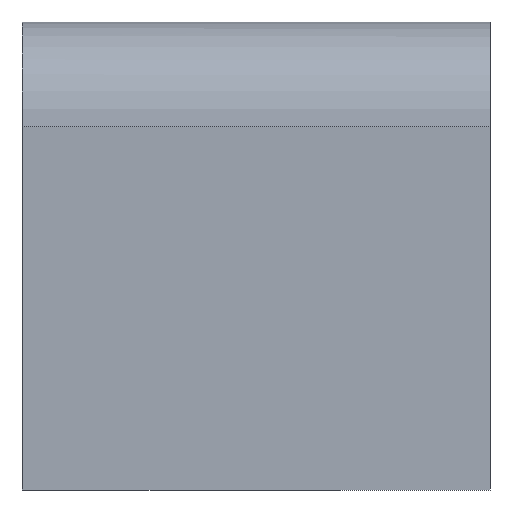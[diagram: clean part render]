
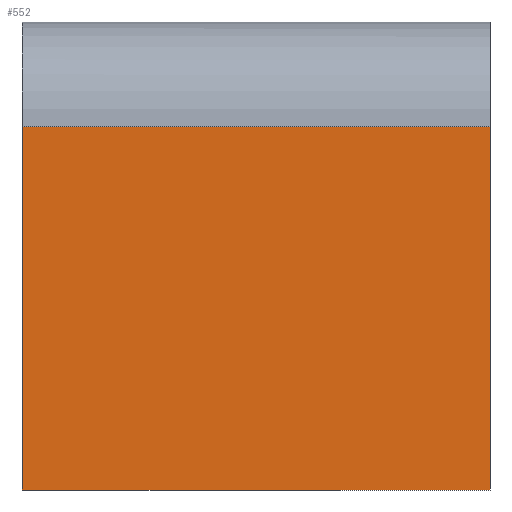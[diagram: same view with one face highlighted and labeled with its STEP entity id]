
A CAD part, left-side view. The second image highlights one B-rep face of the part: STEP entity #552.
In plain terms, the highlighted planar face has unit normal (-1, 0, 0).
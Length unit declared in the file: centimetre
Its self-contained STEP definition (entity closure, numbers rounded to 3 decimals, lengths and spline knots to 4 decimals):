
#25 = CARTESIAN_POINT ( 'NONE',  ( 0., 0., 776.006 ) ) ;
#30 = DIRECTION ( 'NONE',  ( 0., 0., -1. ) ) ;
#37 = CARTESIAN_POINT ( 'NONE',  ( 0., 1000., 776.006 ) ) ;
#169 = ORIENTED_EDGE ( 'NONE', *, *, #1151, .F. ) ;
#187 = VECTOR ( 'NONE', #30, 100. ) ;
#271 = CARTESIAN_POINT ( 'NONE',  ( 0., 1000., 0. ) ) ;
#276 = CARTESIAN_POINT ( 'NONE',  ( 0., 1000., 1000. ) ) ;
#290 = DIRECTION ( 'NONE',  ( 1., 0., 0. ) ) ;
#305 = VECTOR ( 'NONE', #986, 100. ) ;
#312 = CARTESIAN_POINT ( 'NONE',  ( 0., 1000., 0. ) ) ;
#468 = EDGE_CURVE ( 'NONE', #1332, #1258, #1075, .T. ) ;
#529 = VECTOR ( 'NONE', #1056, 100. ) ;
#552 = ADVANCED_FACE ( 'NONE', ( #1243 ), #1252, .F. ) ;
#555 = CARTESIAN_POINT ( 'NONE',  ( 0., 1000., 1000. ) ) ;
#715 = DIRECTION ( 'NONE',  ( 0., 0., -1. ) ) ;
#716 = EDGE_CURVE ( 'NONE', #1258, #765, #1275, .T. ) ;
#718 = CARTESIAN_POINT ( 'NONE',  ( 0., 0., 0. ) ) ;
#765 = VERTEX_POINT ( 'NONE', #718 ) ;
#777 = LINE ( 'NONE', #37, #305 ) ;
#788 = ORIENTED_EDGE ( 'NONE', *, *, #981, .T. ) ;
#825 = ORIENTED_EDGE ( 'NONE', *, *, #468, .T. ) ;
#897 = EDGE_LOOP ( 'NONE', ( #169, #788, #825, #1257 ) ) ;
#918 = LINE ( 'NONE', #1349, #1328 ) ;
#957 = VERTEX_POINT ( 'NONE', #25 ) ;
#981 = EDGE_CURVE ( 'NONE', #957, #1332, #777, .T. ) ;
#986 = DIRECTION ( 'NONE',  ( 0., 1., 0. ) ) ;
#1056 = DIRECTION ( 'NONE',  ( 0., -1., 0. ) ) ;
#1075 = LINE ( 'NONE', #555, #187 ) ;
#1151 = EDGE_CURVE ( 'NONE', #957, #765, #918, .T. ) ;
#1243 = FACE_OUTER_BOUND ( 'NONE', #897, .T. ) ;
#1252 = PLANE ( 'NONE',  #1285 ) ;
#1254 = DIRECTION ( 'NONE',  ( 0., 0., -1. ) ) ;
#1257 = ORIENTED_EDGE ( 'NONE', *, *, #716, .T. ) ;
#1258 = VERTEX_POINT ( 'NONE', #271 ) ;
#1275 = LINE ( 'NONE', #312, #529 ) ;
#1285 = AXIS2_PLACEMENT_3D ( 'NONE', #276, #290, #715 ) ;
#1328 = VECTOR ( 'NONE', #1254, 100. ) ;
#1332 = VERTEX_POINT ( 'NONE', #1380 ) ;
#1349 = CARTESIAN_POINT ( 'NONE',  ( 0., 0., 1000. ) ) ;
#1380 = CARTESIAN_POINT ( 'NONE',  ( 0., 1000., 776.006 ) ) ;
